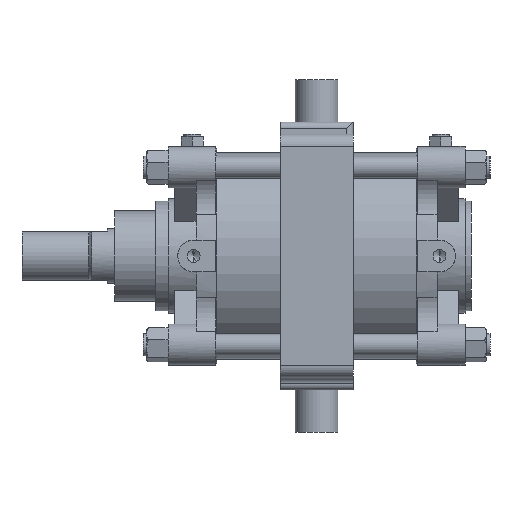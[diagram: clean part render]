
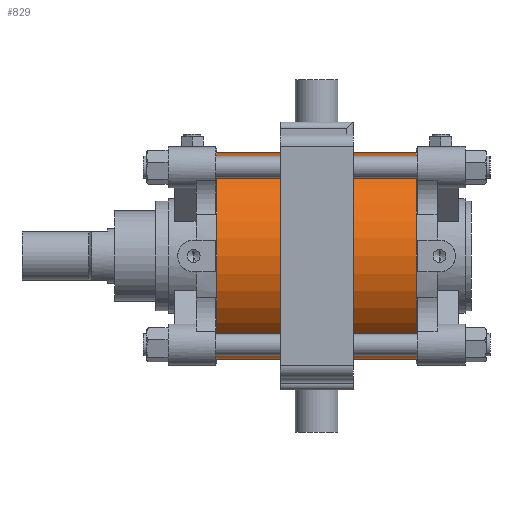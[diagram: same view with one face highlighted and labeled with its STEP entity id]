
A CAD part, front view. The second image highlights one B-rep face of the part: STEP entity #829.
In plain terms, the highlighted cylindrical face has radius 85 mm (diameter 170 mm), a partial arc.
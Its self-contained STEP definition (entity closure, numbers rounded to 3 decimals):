
#92 = CIRCLE ( 'NONE', #2374, 85. ) ;
#230 = CARTESIAN_POINT ( 'NONE',  ( 82., 0., 0. ) ) ;
#407 = CYLINDRICAL_SURFACE ( 'NONE', #654, 85. ) ;
#637 = DIRECTION ( 'NONE',  ( -1., 0., 0. ) ) ;
#654 = AXIS2_PLACEMENT_3D ( 'NONE', #4822, #2504, #3898 ) ;
#829 = ADVANCED_FACE ( 'NONE', ( #7652 ), #407, .T. ) ;
#1409 = ORIENTED_EDGE ( 'NONE', *, *, #10201, .T. ) ;
#1891 = EDGE_CURVE ( 'NONE', #7424, #7865, #92, .T. ) ;
#2102 = ORIENTED_EDGE ( 'NONE', *, *, #1891, .F. ) ;
#2374 = AXIS2_PLACEMENT_3D ( 'NONE', #230, #5182, #8044 ) ;
#2394 = CARTESIAN_POINT ( 'NONE',  ( 82., 0., 85. ) ) ;
#2504 = DIRECTION ( 'NONE',  ( -1., 0., 0. ) ) ;
#2598 = ORIENTED_EDGE ( 'NONE', *, *, #5255, .F. ) ;
#3097 = VECTOR ( 'NONE', #10932, 1000. ) ;
#3130 = VECTOR ( 'NONE', #637, 1000. ) ;
#3436 = CARTESIAN_POINT ( 'NONE',  ( 82., 0., -85. ) ) ;
#3616 = LINE ( 'NONE', #2394, #3130 ) ;
#3809 = DIRECTION ( 'NONE',  ( 0., 0., -1. ) ) ;
#3810 = EDGE_CURVE ( 'NONE', #4931, #4845, #3849, .T. ) ;
#3849 = CIRCLE ( 'NONE', #7502, 85. ) ;
#3898 = DIRECTION ( 'NONE',  ( 0., 0., 1. ) ) ;
#4159 = DIRECTION ( 'NONE',  ( 1., 0., 0. ) ) ;
#4727 = CARTESIAN_POINT ( 'NONE',  ( 82., 0., -85. ) ) ;
#4822 = CARTESIAN_POINT ( 'NONE',  ( 82., 0., 0. ) ) ;
#4845 = VERTEX_POINT ( 'NONE', #5061 ) ;
#4931 = VERTEX_POINT ( 'NONE', #5636 ) ;
#5061 = CARTESIAN_POINT ( 'NONE',  ( -82., 0., -85. ) ) ;
#5182 = DIRECTION ( 'NONE',  ( 1., 0., 0. ) ) ;
#5255 = EDGE_CURVE ( 'NONE', #7865, #4845, #9499, .T. ) ;
#5636 = CARTESIAN_POINT ( 'NONE',  ( -82., 0., 85. ) ) ;
#5707 = ORIENTED_EDGE ( 'NONE', *, *, #3810, .T. ) ;
#5917 = CARTESIAN_POINT ( 'NONE',  ( 82., 0., 85. ) ) ;
#7138 = EDGE_LOOP ( 'NONE', ( #2598, #2102, #1409, #5707 ) ) ;
#7424 = VERTEX_POINT ( 'NONE', #5917 ) ;
#7502 = AXIS2_PLACEMENT_3D ( 'NONE', #8127, #4159, #3809 ) ;
#7652 = FACE_OUTER_BOUND ( 'NONE', #7138, .T. ) ;
#7865 = VERTEX_POINT ( 'NONE', #3436 ) ;
#8044 = DIRECTION ( 'NONE',  ( 0., 0., -1. ) ) ;
#8127 = CARTESIAN_POINT ( 'NONE',  ( -82., 0., 0. ) ) ;
#9499 = LINE ( 'NONE', #4727, #3097 ) ;
#10201 = EDGE_CURVE ( 'NONE', #7424, #4931, #3616, .T. ) ;
#10932 = DIRECTION ( 'NONE',  ( -1., 0., 0. ) ) ;
